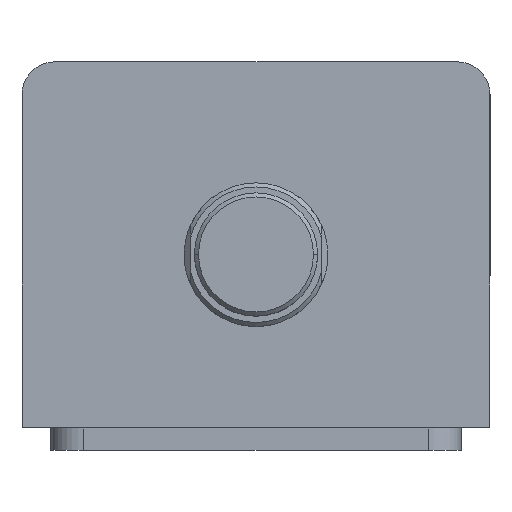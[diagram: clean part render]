
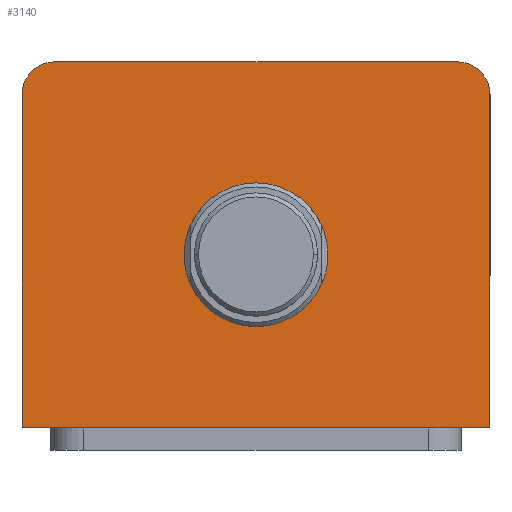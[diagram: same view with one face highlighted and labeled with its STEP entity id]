
A CAD part, top view. The second image highlights one B-rep face of the part: STEP entity #3140.
In plain terms, the highlighted planar face has unit normal (0, 0, 1).
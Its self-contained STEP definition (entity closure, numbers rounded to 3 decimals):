
#31 = EDGE_CURVE ( 'NONE', #2582, #2524, #869, .T. ) ;
#51 = FACE_OUTER_BOUND ( 'NONE', #1037, .T. ) ;
#56 = FACE_BOUND ( 'NONE', #943, .T. ) ;
#148 = VECTOR ( 'NONE', #2980, 1000. ) ;
#151 = LINE ( 'NONE', #2989, #148 ) ;
#159 = CIRCLE ( 'NONE', #3662, 8. ) ;
#226 = DIRECTION ( 'NONE',  ( 1., 0., 0. ) ) ;
#227 = DIRECTION ( 'NONE',  ( 0., 0., 1. ) ) ;
#228 = CARTESIAN_POINT ( 'NONE',  ( 0., -2.5, 97. ) ) ;
#236 = DIRECTION ( 'NONE',  ( 1., 0., 0. ) ) ;
#238 = DIRECTION ( 'NONE',  ( 0., 0., 1. ) ) ;
#241 = CARTESIAN_POINT ( 'NONE',  ( 0., -2.5, 97. ) ) ;
#312 = DIRECTION ( 'NONE',  ( 1., 0., 0. ) ) ;
#315 = CARTESIAN_POINT ( 'NONE',  ( -57., -44.5, 97. ) ) ;
#448 = AXIS2_PLACEMENT_3D ( 'NONE', #3298, #3294, #3292 ) ;
#451 = AXIS2_PLACEMENT_3D ( 'NONE', #228, #227, #226 ) ;
#452 = EDGE_CURVE ( 'NONE', #2449, #2497, #742, .T. ) ;
#472 = CARTESIAN_POINT ( 'NONE',  ( 57., 44.5, 97. ) ) ;
#680 = DIRECTION ( 'NONE',  ( 0., 1., 0. ) ) ;
#742 = LINE ( 'NONE', #472, #833 ) ;
#833 = VECTOR ( 'NONE', #680, 1000. ) ;
#868 = VECTOR ( 'NONE', #1441, 1000. ) ;
#869 = LINE ( 'NONE', #1449, #868 ) ;
#943 = EDGE_LOOP ( 'NONE', ( #1125, #1189 ) ) ;
#1037 = EDGE_LOOP ( 'NONE', ( #1187, #1109, #1124, #1190, #1191, #1192 ) ) ;
#1067 = CIRCLE ( 'NONE', #1326, 17.5 ) ;
#1109 = ORIENTED_EDGE ( 'NONE', *, *, #1866, .T. ) ;
#1124 = ORIENTED_EDGE ( 'NONE', *, *, #1870, .T. ) ;
#1125 = ORIENTED_EDGE ( 'NONE', *, *, #1745, .F. ) ;
#1187 = ORIENTED_EDGE ( 'NONE', *, *, #31, .T. ) ;
#1189 = ORIENTED_EDGE ( 'NONE', *, *, #1742, .F. ) ;
#1190 = ORIENTED_EDGE ( 'NONE', *, *, #1707, .T. ) ;
#1191 = ORIENTED_EDGE ( 'NONE', *, *, #452, .T. ) ;
#1192 = ORIENTED_EDGE ( 'NONE', *, *, #1852, .T. ) ;
#1237 = CIRCLE ( 'NONE', #448, 8. ) ;
#1243 = CIRCLE ( 'NONE', #451, 17.5 ) ;
#1257 = VECTOR ( 'NONE', #312, 1000. ) ;
#1285 = LINE ( 'NONE', #315, #1257 ) ;
#1326 = AXIS2_PLACEMENT_3D ( 'NONE', #241, #238, #236 ) ;
#1441 = DIRECTION ( 'NONE',  ( -1., 0., 0. ) ) ;
#1449 = CARTESIAN_POINT ( 'NONE',  ( -57., 44.5, 97. ) ) ;
#1671 = DIRECTION ( 'NONE',  ( 1., 0., 0. ) ) ;
#1672 = DIRECTION ( 'NONE',  ( 0., 0., 1. ) ) ;
#1675 = PLANE ( 'NONE',  #2629 ) ;
#1678 = CARTESIAN_POINT ( 'NONE',  ( 0., 0., 97. ) ) ;
#1707 = EDGE_CURVE ( 'NONE', #2645, #2449, #1285, .T. ) ;
#1742 = EDGE_CURVE ( 'NONE', #2634, #2539, #1067, .T. ) ;
#1745 = EDGE_CURVE ( 'NONE', #2539, #2634, #1243, .T. ) ;
#1852 = EDGE_CURVE ( 'NONE', #2497, #2582, #1237, .T. ) ;
#1866 = EDGE_CURVE ( 'NONE', #2524, #2490, #159, .T. ) ;
#1870 = EDGE_CURVE ( 'NONE', #2490, #2645, #151, .T. ) ;
#2449 = VERTEX_POINT ( 'NONE', #3186 ) ;
#2490 = VERTEX_POINT ( 'NONE', #3121 ) ;
#2497 = VERTEX_POINT ( 'NONE', #3104 ) ;
#2524 = VERTEX_POINT ( 'NONE', #3084 ) ;
#2539 = VERTEX_POINT ( 'NONE', #3070 ) ;
#2582 = VERTEX_POINT ( 'NONE', #3036 ) ;
#2629 = AXIS2_PLACEMENT_3D ( 'NONE', #1678, #1672, #1671 ) ;
#2634 = VERTEX_POINT ( 'NONE', #2995 ) ;
#2645 = VERTEX_POINT ( 'NONE', #2988 ) ;
#2980 = DIRECTION ( 'NONE',  ( 0., -1., 0. ) ) ;
#2988 = CARTESIAN_POINT ( 'NONE',  ( -57., -44.5, 97. ) ) ;
#2989 = CARTESIAN_POINT ( 'NONE',  ( -57., 44.5, 97. ) ) ;
#2995 = CARTESIAN_POINT ( 'NONE',  ( -17.5, -2.5, 97. ) ) ;
#3023 = DIRECTION ( 'NONE',  ( 1., 0., 0. ) ) ;
#3028 = DIRECTION ( 'NONE',  ( 0., 0., 1. ) ) ;
#3035 = CARTESIAN_POINT ( 'NONE',  ( -49., 36.5, 97. ) ) ;
#3036 = CARTESIAN_POINT ( 'NONE',  ( 49., 44.5, 97. ) ) ;
#3070 = CARTESIAN_POINT ( 'NONE',  ( 17.5, -2.5, 97. ) ) ;
#3084 = CARTESIAN_POINT ( 'NONE',  ( -49., 44.5, 97. ) ) ;
#3104 = CARTESIAN_POINT ( 'NONE',  ( 57., 36.5, 97. ) ) ;
#3121 = CARTESIAN_POINT ( 'NONE',  ( -57., 36.5, 97. ) ) ;
#3140 = ADVANCED_FACE ( 'NONE', ( #56, #51 ), #1675, .T. ) ;
#3186 = CARTESIAN_POINT ( 'NONE',  ( 57., -44.5, 97. ) ) ;
#3292 = DIRECTION ( 'NONE',  ( 1., 0., 0. ) ) ;
#3294 = DIRECTION ( 'NONE',  ( 0., 0., 1. ) ) ;
#3298 = CARTESIAN_POINT ( 'NONE',  ( 49., 36.5, 97. ) ) ;
#3662 = AXIS2_PLACEMENT_3D ( 'NONE', #3035, #3028, #3023 ) ;
